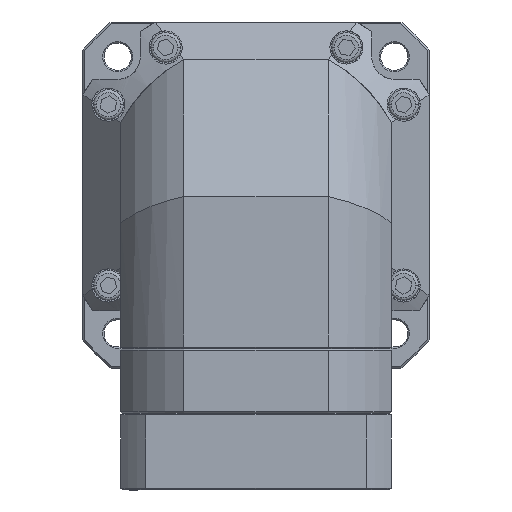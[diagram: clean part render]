
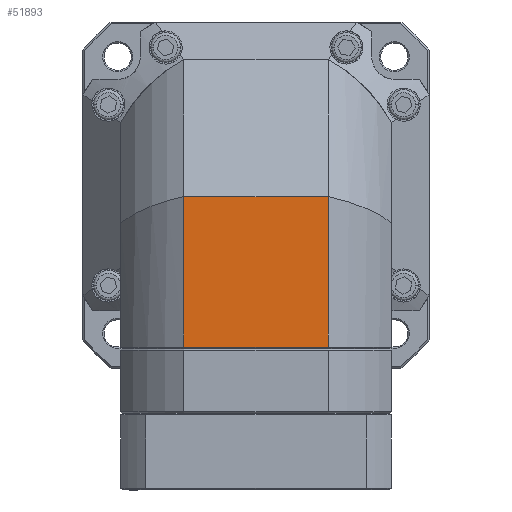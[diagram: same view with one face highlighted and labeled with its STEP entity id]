
A CAD part, front view. The second image highlights one B-rep face of the part: STEP entity #51893.
In plain terms, the highlighted planar face has unit normal (0, 1, 0).
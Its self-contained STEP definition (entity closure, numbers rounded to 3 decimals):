
#1588 = CARTESIAN_POINT ( 'NONE',  ( 24., -225.611, -50.5 ) ) ;
#4855 = EDGE_CURVE ( 'NONE', #52942, #23449, #76217, .T. ) ;
#10061 = ORIENTED_EDGE ( 'NONE', *, *, #31716, .F. ) ;
#11381 = CARTESIAN_POINT ( 'NONE',  ( 0., -225.611, -50.5 ) ) ;
#14975 = EDGE_LOOP ( 'NONE', ( #39418, #10061, #18605, #92810 ) ) ;
#15296 = VECTOR ( 'NONE', #101166, 1000. ) ;
#17262 = CARTESIAN_POINT ( 'NONE',  ( -24., -225.611, -50.5 ) ) ;
#17432 = CARTESIAN_POINT ( 'NONE',  ( -24., -225.611, -0.5 ) ) ;
#18605 = ORIENTED_EDGE ( 'NONE', *, *, #27326, .T. ) ;
#23125 = LINE ( 'NONE', #44246, #84118 ) ;
#23449 = VERTEX_POINT ( 'NONE', #1588 ) ;
#24119 = VERTEX_POINT ( 'NONE', #17432 ) ;
#24142 = VECTOR ( 'NONE', #74954, 1000. ) ;
#25301 = DIRECTION ( 'NONE',  ( 1., 0., 0. ) ) ;
#27326 = EDGE_CURVE ( 'NONE', #78149, #24119, #101774, .T. ) ;
#27760 = CARTESIAN_POINT ( 'NONE',  ( 24., -225.611, -0.5 ) ) ;
#31716 = EDGE_CURVE ( 'NONE', #78149, #23449, #45328, .T. ) ;
#33000 = PLANE ( 'NONE',  #98981 ) ;
#39241 = CARTESIAN_POINT ( 'NONE',  ( -24., -225.611, -50.5 ) ) ;
#39418 = ORIENTED_EDGE ( 'NONE', *, *, #4855, .T. ) ;
#42734 = DIRECTION ( 'NONE',  ( 0., 0., 1. ) ) ;
#44246 = CARTESIAN_POINT ( 'NONE',  ( 0., -225.611, -0.5 ) ) ;
#45328 = LINE ( 'NONE', #11381, #24142 ) ;
#46754 = EDGE_CURVE ( 'NONE', #24119, #52942, #23125, .T. ) ;
#51893 = ADVANCED_FACE ( 'NONE', ( #101855 ), #33000, .F. ) ;
#52942 = VERTEX_POINT ( 'NONE', #27760 ) ;
#59336 = VECTOR ( 'NONE', #42734, 1000. ) ;
#72865 = DIRECTION ( 'NONE',  ( 0., -1., 0. ) ) ;
#74954 = DIRECTION ( 'NONE',  ( 1., 0., 0. ) ) ;
#76217 = LINE ( 'NONE', #101488, #15296 ) ;
#78149 = VERTEX_POINT ( 'NONE', #39241 ) ;
#84118 = VECTOR ( 'NONE', #91913, 1000. ) ;
#90391 = CARTESIAN_POINT ( 'NONE',  ( -24., -225.611, -25.35 ) ) ;
#91913 = DIRECTION ( 'NONE',  ( 1., 0., 0. ) ) ;
#92810 = ORIENTED_EDGE ( 'NONE', *, *, #46754, .T. ) ;
#98981 = AXIS2_PLACEMENT_3D ( 'NONE', #17262, #72865, #25301 ) ;
#101166 = DIRECTION ( 'NONE',  ( 0., 0., -1. ) ) ;
#101488 = CARTESIAN_POINT ( 'NONE',  ( 24., -225.611, -25.35 ) ) ;
#101774 = LINE ( 'NONE', #90391, #59336 ) ;
#101855 = FACE_OUTER_BOUND ( 'NONE', #14975, .T. ) ;
